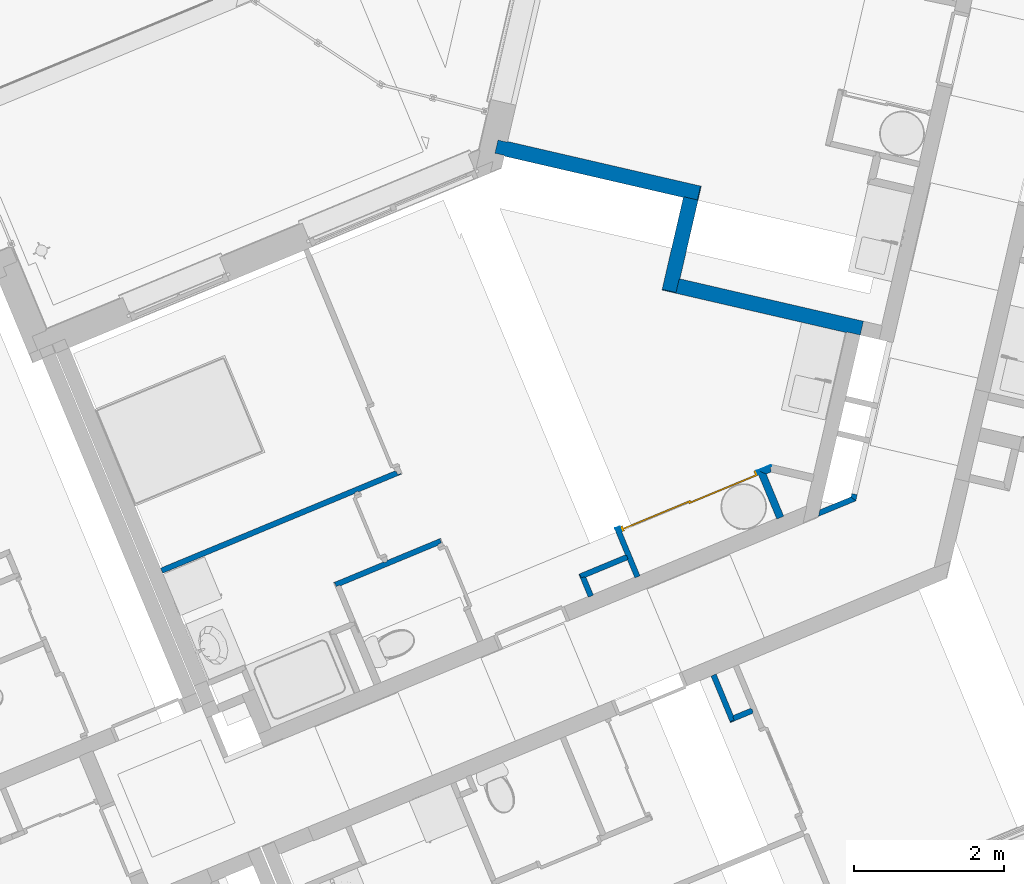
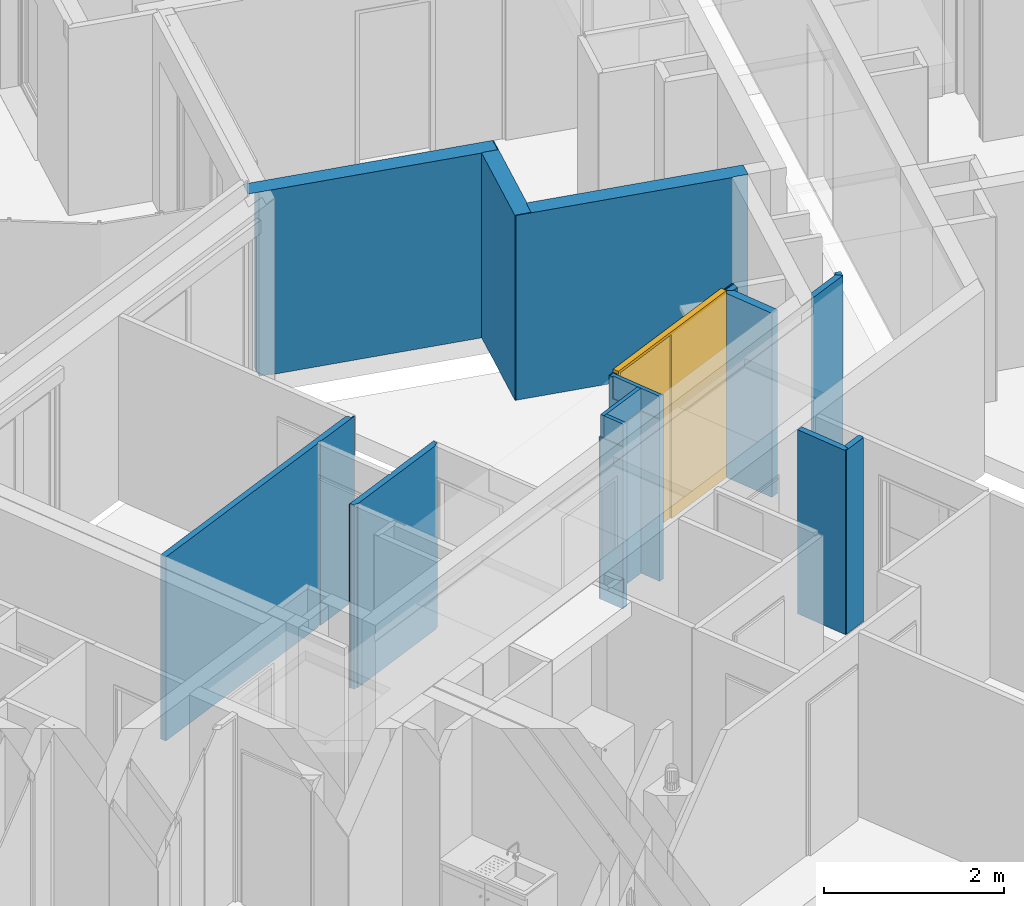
# One storey, part 42 of 119: 15 walls, 1 door, 1 opening.
"""IFC2X3 building model written with IfcOpenShell, lengths in metres."""

from ifc_helpers import new_model, entity, si_unit, converted_unit, derived_unit, money_unit, direction, frame, origin_with_axes, place, context, subcontext, project, spatial, faceted_brep, material, material_list, type_object, element, fill, save


model = new_model("IFC2X3")

# Units and contexts
model_context = context("Model", 3, precision=1e-05, world=origin_with_axes(), true_north=direction((0.0, 1.0)))
body_context = subcontext(model_context, "Body", "Model", "MODEL_VIEW")
ifc_project = project(units=[si_unit("LENGTHUNIT", "METRE"), si_unit("AREAUNIT", "SQUARE_METRE"), si_unit("VOLUMEUNIT", "CUBIC_METRE"), converted_unit("PLANEANGLEUNIT", "DEGREE", entity("IfcPlaneAngleMeasure", 0.0174532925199), si_unit("PLANEANGLEUNIT", "RADIAN"), dimensions=[0, 0, 0, 0, 0, 0, 0]), si_unit("SOLIDANGLEUNIT", "STERADIAN"), money_unit("EUR"), converted_unit("TIMEUNIT", "Year", entity("IfcTimeMeasure", 31556926.0), si_unit("TIMEUNIT", "SECOND"), dimensions=[0, 0, 1, 0, 0, 0, 0]), si_unit("MASSUNIT", "GRAM", prefix="KILO"), si_unit("THERMODYNAMICTEMPERATUREUNIT", "DEGREE_CELSIUS"), si_unit("LUMINOUSINTENSITYUNIT", "LUMEN"), si_unit("ENERGYUNIT", "JOULE", prefix="MEGA"), derived_unit("THERMALCONDUCTANCEUNIT", [(si_unit("POWERUNIT", "WATT"), 1), (si_unit("LENGTHUNIT", "METRE"), -1), (si_unit("THERMODYNAMICTEMPERATUREUNIT", "KELVIN"), -1)]), derived_unit("SPECIFICHEATCAPACITYUNIT", [(si_unit("ENERGYUNIT", "JOULE"), 1), (si_unit("MASSUNIT", "GRAM", prefix="KILO"), -1), (si_unit("THERMODYNAMICTEMPERATUREUNIT", "KELVIN"), -1)]), derived_unit("MASSDENSITYUNIT", [(si_unit("MASSUNIT", "GRAM", prefix="KILO"), 1), (si_unit("VOLUMEUNIT", "CUBIC_METRE"), -1)])], contexts=[model_context])

# Site, building, storey
site_placement = place(None, origin_with_axes())
site = spatial("IfcSite", under=ifc_project, at=site_placement, Name="Site", CompositionType="ELEMENT")
building_placement = place(site_placement, origin_with_axes())
building = spatial("IfcBuilding", under=site, at=building_placement, Name="Bâtiment", CompositionType="ELEMENT")
storey_placement = place(building_placement, origin_with_axes())
storey = spatial("IfcBuildingStorey", under=building, at=storey_placement, Name="Rez-de-chaussée", CompositionType="ELEMENT", Elevation=0.0)

# Walls
ifc_material_1 = material(Name="Cloison - Carreaux de plâtre")
wall_type_1 = type_object("IfcWallType", Name="Cloison - Carreaux de plâtre 74", PredefinedType="USERDEFINED")
wall_1_placement = place(storey_placement, frame((-14.7299113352, -17.3671280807, 0.0), z_axis=(0.0, 0.0, 1.0), x_axis=(-0.224876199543, -0.974387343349, 0.0)))
element("IfcWall", 1, at=wall_1_placement, inside=storey, type_object=wall_type_1, material=ifc_material_1, Name="Carreaux de plâtre 8cm", ObjectType="PARTITIONING", context=body_context, shape_type="Brep", body=[
    faceted_brep([(0.0, 0.0, 2.5), (0.0, -0.074, 2.5), (0.0459416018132, -0.074, 2.5), (0.0840359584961, 0.0, 2.5), (0.0, 0.0, 0.15), (0.0, -0.074, 0.15), (0.0, -0.074, 0.0), (0.0459416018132, -0.074, 0.0), (0.0840359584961, 0.0, 0.0), (0.0, 0.0, 0.0)], [[[0, 1, 2, 3]], [[1, 0, 4, 5]], [[5, 6, 7, 2, 1]], [[7, 8, 3, 2]], [[3, 8, 9, 4, 0]], [[9, 6, 5, 4]], [[9, 8, 7, 6]]]),
])
wall_2_placement = place(storey_placement, frame((-15.2595237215, -17.6608345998, 0.0), z_axis=(0.0, 0.0, 1.0), x_axis=(0.923701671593, 0.383112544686, 0.0)))
element("IfcWall", 2, at=wall_2_placement, inside=storey, type_object=wall_type_1, material=ifc_material_1, Name="Carreaux de plâtre 8cm", ObjectType="PARTITIONING", context=body_context, shape_type="Brep", body=[
    faceted_brep([(0.514805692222, 0.074, 2.5), (0.514805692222, 0.074, 0.0), (0.065113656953, 0.074, 0.0), (0.065113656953, 0.074, 2.5), (0.552900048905, 0.0, 2.5), (0.552900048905, 0.0, 0.0), (0.0122866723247, 0.0, 0.0), (0.0122866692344, -4.32440749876e-09, 2.5)], [[[0, 1, 2, 3]], [[4, 5, 1, 0]], [[1, 5, 6, 2]], [[2, 6, 7, 3]], [[4, 0, 3, 7]], [[5, 4, 7, 6]]]),
])

# Wall, opening, door
ifc_material_2 = material(Name="Finition int - Plaque de plâtre")
ifc_material_3 = material(Name="Isolation - Laine de roche")
ifc_material_list_1 = material_list([ifc_material_2, ifc_material_3])
wall_type_2 = type_object("IfcWallType", Name="3 - Cloison 72mm Placostil 74", PredefinedType="USERDEFINED")
wall_3_placement = place(storey_placement, frame((-17.9705088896, -17.8217225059, 0.0), z_axis=(0.0, 0.0, 1.0), x_axis=(0.923701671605, 0.383112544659, 0.0)))
wall_3 = element("IfcWall", 3, at=wall_3_placement, inside=storey, type_object=wall_type_2, material=ifc_material_list_1, Name="Cloison Placostil 72/48", ObjectType="PARTITIONING", context=body_context, shape_type="Brep", body=[
    faceted_brep([(0.0739999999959, -0.013, 0.0), (0.0739999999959, -0.013, 2.5), (0.0129999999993, -0.013, 2.5), (0.0129999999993, -0.013, 0.0), (0.0739999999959, 0.0, 2.5), (0.0739999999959, 0.0, 0.0), (0.013, 0.0, 2.5), (0.013, 0.0, 0.0)], [[[0, 1, 2, 3]], [[4, 1, 0, 5]], [[1, 4, 6, 2]], [[2, 6, 7, 3]], [[5, 0, 3, 7]], [[4, 5, 7, 6]]]),
    faceted_brep([(0.0739999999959, -0.061, 0.0), (0.0739999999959, -0.061, 2.5), (0.0609999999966, -0.061, 2.5), (0.0609999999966, -0.061, 0.0), (0.0739999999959, -0.013, 2.5), (0.0739999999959, -0.013, 0.0), (0.0609999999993, -0.013, 2.5), (0.0609999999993, -0.013, 0.0)], [[[0, 1, 2, 3]], [[4, 1, 0, 5]], [[1, 4, 6, 2]], [[2, 6, 7, 3]], [[5, 0, 3, 7]], [[4, 5, 7, 6]]]),
    faceted_brep([(2.05206633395, -0.013, 2.5), (2.05206633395, -0.061, 2.5), (2.07806634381, -0.061, 2.5), (2.07806634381, -0.0260000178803, 2.5), (2.25206633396, -0.0260000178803, 2.5), (2.25206633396, -0.013, 2.5), (2.05206633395, -0.061, 0.0), (2.05206633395, -0.013, 0.0), (2.07806634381, -0.061, 0.0), (2.07806634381, -0.0260000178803, 0.0), (2.25206633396, -0.0260000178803, 0.0), (2.25206633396, -0.013, 0.0)], [[[0, 1, 2, 3, 4, 5]], [[6, 1, 0, 7]], [[1, 6, 8, 2]], [[3, 2, 8, 9]], [[10, 4, 3, 9]], [[4, 10, 11, 5]], [[7, 0, 5, 11]], [[6, 7, 11, 10, 9, 8]]]),
])
opening_placement = place(wall_3_placement, frame((1.06303316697, 0.0, 0.0), z_axis=(0.0, 0.0, 1.0), x_axis=(1.0, 0.0, 0.0)))
opening = element("IfcOpeningElement", 4, at=opening_placement, cuts=wall_3, Name="Por-002", context=body_context, shape_type="Brep", body=[
    faceted_brep([(0.989033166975, -0.074, 0.0), (-0.989033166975, -0.074, 0.0), (-0.989033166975, 0.074, 0.0), (0.989033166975, 0.074, 0.0), (0.989033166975, -0.074, 2.54), (-0.989033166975, -0.074, 2.54), (-0.989033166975, 0.074, 2.54), (0.989033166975, 0.074, 2.54)], [[[0, 1, 2, 3]], [[0, 4, 5, 1]], [[1, 5, 6, 2]], [[3, 2, 6, 7]], [[4, 0, 3, 7]], [[5, 4, 7, 6]]]),
])
door_style = type_object("IfcDoorStyle", Name="Porte int générique 2019", ConstructionType="NOTDEFINED", OperationType="USERDEFINED", ParameterTakesPrecedence=False, Sizeable=False)
door_placement = place(opening_placement, frame((0.949033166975, 0.0, 0.0), z_axis=(0.0, 0.0, 1.0), x_axis=(-1.0, 0.0, 0.0)))
door = element("IfcDoor", 5, at=door_placement, inside=storey, type_object=door_style, Name="Por-002", ObjectType="DOOR", OverallHeight=2.5, OverallWidth=1.89807, context=body_context, shape_type="Brep", body=[
    faceted_brep([(-0.04, 0.074, 0.0), (-0.04, 0.074, 2.54), (1.93806633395, 0.074, 2.54), (1.93806633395, 0.074, 0.0), (1.89806633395, 0.074, 0.0), (1.89806633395, 0.074, 2.5), (0.0, 0.074, 2.5), (0.0, 0.074, 0.0), (-0.04, 0.0, 0.0), (-0.04, 0.0, 2.54), (1.93806633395, 0.0, 2.54), (1.93806633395, 0.0, 0.0), (1.89806633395, 0.0, 0.0), (1.89806633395, 0.0, 2.5), (0.0, 0.0, 2.5), (0.0, 0.0, 0.0)], [[[0, 1, 2, 3, 4, 5, 6, 7]], [[8, 9, 1, 0]], [[9, 10, 2, 1]], [[10, 11, 3, 2]], [[3, 11, 12, 4]], [[5, 4, 12, 13]], [[6, 5, 13, 14]], [[7, 6, 14, 15]], [[0, 7, 15, 8]], [[15, 14, 13, 12, 11, 10, 9, 8]]]),
    faceted_brep([(0.0, 0.074, 0.0), (0.964033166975, 0.074, 0.0), (0.964033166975, 0.054, 0.0), (0.0, 0.054, 0.0), (0.0, 0.074, 2.5), (0.964033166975, 0.074, 2.5), (0.964033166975, 0.054, 2.5), (0.0, 0.054, 2.5)], [[[0, 1, 2, 3]], [[0, 4, 5, 1]], [[1, 5, 6, 2]], [[3, 2, 6, 7]], [[4, 0, 3, 7]], [[5, 4, 7, 6]]]),
    faceted_brep([(0.934033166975, 0.054, 0.0), (1.89806633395, 0.054, 0.0), (1.89806633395, 0.034, 0.0), (0.934033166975, 0.034, 0.0), (0.934033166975, 0.054, 2.5), (1.89806633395, 0.054, 2.5), (1.89806633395, 0.034, 2.5), (0.934033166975, 0.034, 2.5)], [[[0, 1, 2, 3]], [[0, 4, 5, 1]], [[1, 5, 6, 2]], [[3, 2, 6, 7]], [[4, 0, 3, 7]], [[5, 4, 7, 6]]]),
])
fill(opening, door)

# Walls
ifc_material_list_2 = material_list([ifc_material_2, ifc_material_3, ifc_material_2])
wall_4_placement = place(storey_placement, frame((-17.6295387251, -18.643816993, 0.0), z_axis=(0.0, 0.0, 1.0), x_axis=(-0.383112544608, 0.923701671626, 0.0)))
element("IfcWall", 6, at=wall_4_placement, inside=storey, type_object=wall_type_2, material=ifc_material_list_2, Name="Cloison Placostil 72/48", ObjectType="PARTITIONING", context=body_context, shape_type="Brep", body=[
    faceted_brep([(0.452999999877, -0.013, 2.2), (0.189999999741, -0.013, 2.2), (0.189999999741, -0.013, 2.5), (0.179999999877, -0.013, 2.5), (0.179999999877, -0.013, 0.0), (0.452999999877, -0.013, 0.0), (0.452999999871, 0.0, 2.2), (0.189999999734, 0.0, 2.2), (0.189999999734, 0.0, 2.5), (0.179999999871, 0.0, 2.5), (0.179999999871, 0.0, 0.0), (0.452999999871, 0.0, 0.0)], [[[0, 1, 2, 3, 4, 5]], [[1, 0, 6, 7]], [[8, 2, 1, 7]], [[2, 8, 9, 3]], [[4, 3, 9, 10]], [[11, 5, 4, 10]], [[6, 0, 5, 11]], [[7, 6, 11, 10, 9, 8]]]),
    faceted_brep([(0.839999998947, -0.013, 2.5), (0.839999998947, -0.013, 2.2), (0.500999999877, -0.013, 2.2), (0.500999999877, -0.013, 0.0), (0.889999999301, -0.013, 0.0), (0.889999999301, -0.013, 2.5), (0.839999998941, 0.0, 2.5), (0.839999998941, 0.0, 2.2), (0.500999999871, 0.0, 2.2), (0.500999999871, 0.0, 0.0), (0.8899999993, 0.0, 0.0), (0.8899999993, 0.0, 2.5)], [[[0, 1, 2, 3, 4, 5]], [[1, 0, 6, 7]], [[8, 2, 1, 7]], [[2, 8, 9, 3]], [[10, 4, 3, 9]], [[11, 5, 4, 10]], [[6, 0, 5, 11]], [[7, 6, 11, 10, 9, 8]]]),
    faceted_brep([(0.876999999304, -0.061, 2.5), (0.876999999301, -0.013, 2.5), (0.179999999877, -0.013, 2.5), (0.179999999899, -0.061, 2.5), (0.876999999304, -0.061, 0.0), (0.876999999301, -0.013, 0.0), (0.179999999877, -0.013, 0.0), (0.179999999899, -0.061, 0.0)], [[[0, 1, 2, 3]], [[1, 0, 4, 5]], [[1, 5, 6, 2]], [[7, 3, 2, 6]], [[4, 0, 3, 7]], [[5, 4, 7, 6]]]),
    faceted_brep([(0.828999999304, -0.074, 2.2), (0.189999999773, -0.074, 2.2), (0.189999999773, -0.074, 2.5), (0.179999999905, -0.074, 2.5), (0.179999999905, -0.074, 0.0), (0.828999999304, -0.074, 0.0), (0.828999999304, -0.061, 2.2), (0.189999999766, -0.061, 2.2), (0.189999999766, -0.061, 2.5), (0.179999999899, -0.061, 2.5), (0.179999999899, -0.061, 0.0), (0.828999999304, -0.061, 0.0)], [[[0, 1, 2, 3, 4, 5]], [[1, 0, 6, 7]], [[8, 2, 1, 7]], [[2, 8, 9, 3]], [[4, 3, 9, 10]], [[11, 5, 4, 10]], [[6, 0, 5, 11]], [[7, 6, 11, 10, 9, 8]]]),
])
wall_5_placement = place(storey_placement, frame((-21.6551757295, -18.5120342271, 0.0), z_axis=(0.0, 0.0, 1.0), x_axis=(0.923701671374, 0.383112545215, 0.0)))
element("IfcWall", 7, at=wall_5_placement, inside=storey, type_object=wall_type_2, material=ifc_material_list_2, Name="Cloison Placostil 72/48", ObjectType="PARTITIONING", context=body_context, shape_type="Brep", body=[
    faceted_brep([(1.47399999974, -0.013, 2.5), (1.47399999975, 0.0, 2.5), (0.697460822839, 0.0, 2.5), (0.697460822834, -0.013, 2.5), (1.47399999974, -0.013, 0.0), (1.47399999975, 0.0, 0.0), (0.697460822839, 0.0, 0.0), (0.697460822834, -0.013, 0.0)], [[[0, 1, 2, 3]], [[1, 0, 4, 5]], [[1, 5, 6, 2]], [[7, 3, 2, 6]], [[4, 0, 3, 7]], [[5, 4, 7, 6]]]),
    faceted_brep([(0.649460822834, -0.013, 2.5), (0.649460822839, 0.0, 2.5), (-0.074, 0.0, 2.5), (-0.0740000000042, -0.013, 2.5), (0.649460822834, -0.013, 0.0), (0.649460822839, 0.0, 0.0), (-0.074, 0.0, 0.0), (-0.0740000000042, -0.013, 0.0)], [[[0, 1, 2, 3]], [[1, 0, 4, 5]], [[1, 5, 6, 2]], [[7, 3, 2, 6]], [[4, 0, 3, 7]], [[5, 4, 7, 6]]]),
    faceted_brep([(1.46099999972, -0.061, 2.5), (1.46099999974, -0.013, 2.5), (-0.0610000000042, -0.013, 2.5), (-0.0610000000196, -0.061, 2.5), (1.46099999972, -0.061, 0.0), (1.46099999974, -0.013, 0.0), (-0.0610000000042, -0.013, 0.0), (-0.0610000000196, -0.061, 0.0)], [[[0, 1, 2, 3]], [[1, 0, 4, 5]], [[1, 5, 6, 2]], [[7, 3, 2, 6]], [[4, 0, 3, 7]], [[5, 4, 7, 6]]]),
    faceted_brep([(1.41299999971, -0.074, 2.5), (1.41299999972, -0.061, 2.5), (-0.0130000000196, -0.061, 2.5), (-0.0130000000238, -0.074, 2.5), (1.41299999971, -0.074, 0.0), (1.41299999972, -0.061, 0.0), (-0.0130000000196, -0.061, 0.0), (-0.0130000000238, -0.074, 0.0)], [[[0, 1, 2, 3]], [[1, 0, 4, 5]], [[1, 5, 6, 2]], [[7, 3, 2, 6]], [[4, 0, 3, 7]], [[5, 4, 7, 6]]]),
])
wall_6_placement = place(storey_placement, frame((-17.826458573, -18.1690343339, 0.0), z_axis=(0.0, 0.0, 1.0), x_axis=(-0.923701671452, -0.383112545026, 0.0)))
element("IfcWall", 8, at=wall_6_placement, inside=storey, type_object=wall_type_2, material=ifc_material_list_2, Name="Cloison Placostil 72/48", ObjectType="PARTITIONING", context=body_context, shape_type="Brep", body=[
    faceted_brep([(0.0, 0.061, 2.2), (0.0, 0.074, 2.2), (0.0, 0.074, 0.0), (0.0, 0.061, 0.0), (0.613000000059, 0.074, 2.2), (0.613000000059, 0.061, 2.2), (0.613000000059, 0.074, 0.0), (0.613000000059, 0.061, 0.0)], [[[0, 1, 2, 3]], [[4, 1, 0, 5]], [[1, 4, 6, 2]], [[6, 7, 3, 2]], [[5, 0, 3, 7]], [[4, 5, 7, 6]]]),
    faceted_brep([(0.661000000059, 0.061, 0.0), (0.661000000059, 0.013, 0.0), (-0.0130000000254, 0.013, 0.0), (-0.0130000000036, 0.061, 0.0), (0.661000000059, 0.061, 2.5), (0.661000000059, 0.013, 2.5), (-0.0130000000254, 0.013, 2.5), (-0.0130000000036, 0.061, 2.5)], [[[0, 1, 2, 3]], [[1, 0, 4, 5]], [[1, 5, 6, 2]], [[7, 3, 2, 6]], [[4, 0, 3, 7]], [[5, 4, 7, 6]]]),
    faceted_brep([(0.0, 0.0, 2.2), (0.0, 0.013, 2.2), (0.0, 0.013, 0.0), (0.0, 0.0, 0.0), (0.674000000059, 0.013, 2.2), (0.674000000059, 0.0, 2.2), (0.674000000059, 0.013, 0.0), (0.674000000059, 0.0, 0.0)], [[[0, 1, 2, 3]], [[4, 1, 0, 5]], [[1, 4, 6, 2]], [[6, 7, 3, 2]], [[5, 0, 3, 7]], [[4, 5, 7, 6]]]),
])
wall_7_placement = place(storey_placement, frame((-20.806315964, -17.0871087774, 0.0), z_axis=(0.0, 0.0, 1.0), x_axis=(-0.923701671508, -0.383112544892, 0.0)))
element("IfcWall", 9, at=wall_7_placement, inside=storey, type_object=wall_type_2, material=ifc_material_list_2, Name="Cloison Placostil 72/48", ObjectType="PARTITIONING", context=body_context, shape_type="Brep", body=[
    faceted_brep([(0.632539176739, -0.013, 2.5), (0.63253917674, 0.0, 2.5), (0.013, 0.0, 2.5), (0.0129999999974, -0.013, 2.5), (0.632539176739, -0.013, 0.0), (0.63253917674, 0.0, 0.0), (0.013, 0.0, 0.0), (0.0129999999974, -0.013, 0.0)], [[[0, 1, 2, 3]], [[1, 0, 4, 5]], [[1, 5, 6, 2]], [[7, 3, 2, 6]], [[4, 0, 3, 7]], [[5, 4, 7, 6]]]),
    faceted_brep([(0.680539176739, -0.013, 2.5), (3.4639999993, -0.013, 2.5), (3.4639999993, 0.0, 2.5), (0.68053917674, 0.0, 2.5), (0.680539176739, -0.013, 0.0), (3.4639999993, -0.013, 0.0), (3.4639999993, 0.0, 0.0), (0.68053917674, 0.0, 0.0)], [[[0, 1, 2, 3]], [[4, 5, 1, 0]], [[2, 1, 5, 6]], [[3, 2, 6, 7]], [[4, 0, 3, 7]], [[7, 6, 5, 4]]]),
    faceted_brep([(0.0609999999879, -0.061, 2.5), (3.4639999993, -0.061, 2.5), (3.4639999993, -0.013, 2.5), (0.0609999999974, -0.013, 2.5), (0.0609999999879, -0.061, 0.0), (3.4639999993, -0.061, 0.0), (3.4639999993, -0.013, 0.0), (0.0609999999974, -0.013, 0.0)], [[[0, 1, 2, 3]], [[4, 5, 1, 0]], [[2, 1, 5, 6]], [[3, 2, 6, 7]], [[4, 0, 3, 7]], [[7, 6, 5, 4]]]),
    faceted_brep([(0.0739999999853, -0.074, 2.5), (3.4639999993, -0.074, 2.5), (3.4639999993, -0.061, 2.5), (0.0739999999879, -0.061, 2.5), (0.0739999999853, -0.074, 0.0), (3.4639999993, -0.074, 0.0), (3.4639999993, -0.061, 0.0), (0.0739999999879, -0.061, 0.0)], [[[0, 1, 2, 3]], [[4, 5, 1, 0]], [[2, 1, 5, 6]], [[3, 2, 6, 7]], [[4, 0, 3, 7]], [[7, 6, 5, 4]]]),
])
wall_8_placement = place(storey_placement, frame((-16.4239628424, -20.4107605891, 0.0), z_axis=(0.0, 0.0, 1.0), x_axis=(0.92370167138, 0.383112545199, 0.0)))
element("IfcWall", 10, at=wall_8_placement, inside=storey, type_object=wall_type_2, material=ifc_material_list_2, Name="Cloison Placostil 72/48", ObjectType="PARTITIONING", context=body_context, shape_type="Brep", body=[
    faceted_brep([(0.323540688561, 0.074, 0.0), (0.323540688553, 0.061, 0.0), (0.0740000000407, 0.061, 0.0), (0.0740000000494, 0.074, 0.0), (0.323540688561, 0.074, 2.5), (0.323540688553, 0.061, 2.5), (0.0740000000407, 0.061, 2.5), (0.0740000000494, 0.074, 2.5)], [[[0, 1, 2, 3]], [[1, 0, 4, 5]], [[1, 5, 6, 2]], [[7, 3, 2, 6]], [[4, 0, 3, 7]], [[5, 4, 7, 6]]]),
    faceted_brep([(0.336540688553, 0.061, 0.0), (0.336540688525, 0.013, 0.0), (0.0610000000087, 0.013, 0.0), (0.0610000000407, 0.061, 0.0), (0.336540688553, 0.061, 2.5), (0.336540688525, 0.013, 2.5), (0.0610000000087, 0.013, 2.5), (0.0610000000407, 0.061, 2.5)], [[[0, 1, 2, 3]], [[1, 0, 4, 5]], [[1, 5, 6, 2]], [[7, 3, 2, 6]], [[4, 0, 3, 7]], [[5, 4, 7, 6]]]),
    faceted_brep([(0.323540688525, 0.013, 0.0), (0.323540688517, 0.0, 0.0), (0.013, 0.0, 0.0), (0.0130000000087, 0.013, 0.0), (0.323540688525, 0.013, 2.5), (0.323540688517, 0.0, 2.5), (0.013, 0.0, 2.5), (0.0130000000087, 0.013, 2.5)], [[[0, 1, 2, 3]], [[1, 0, 4, 5]], [[1, 5, 6, 2]], [[7, 3, 2, 6]], [[4, 0, 3, 7]], [[5, 4, 7, 6]]]),
])
wall_9_placement = place(storey_placement, frame((-18.4490334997, -18.4272521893, 0.0), z_axis=(0.0, 0.0, 1.0), x_axis=(0.383112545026, -0.923701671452, 0.0)))
element("IfcWall", 11, at=wall_9_placement, inside=storey, type_object=wall_type_2, material=ifc_material_list_2, Name="Cloison Placostil 72/48", ObjectType="PARTITIONING", context=body_context, shape_type="Brep", body=[
    faceted_brep([(0.074, 0.074, 2.2), (0.324000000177, 0.074, 2.2), (0.324000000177, 0.074, 2.5), (0.334, 0.074, 2.5), (0.334, 0.074, 0.0), (0.074, 0.074, 0.0), (0.074, 0.061, 2.2), (0.324000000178, 0.061, 2.2), (0.324000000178, 0.061, 2.5), (0.334, 0.061, 2.5), (0.334, 0.061, 0.0), (0.074, 0.061, 0.0)], [[[0, 1, 2, 3, 4, 5]], [[1, 0, 6, 7]], [[8, 2, 1, 7]], [[2, 8, 9, 3]], [[10, 4, 3, 9]], [[4, 10, 11, 5]], [[6, 0, 5, 11]], [[7, 6, 11, 10, 9, 8]]]),
    faceted_brep([(0.334, 0.061, 0.0), (0.334, 0.013, 0.0), (0.061, 0.013, 0.0), (0.061, 0.061, 0.0), (0.334, 0.061, 2.5), (0.334, 0.013, 2.5), (0.061, 0.013, 2.5), (0.061, 0.061, 2.5)], [[[0, 1, 2, 3]], [[1, 0, 4, 5]], [[1, 5, 6, 2]], [[7, 3, 2, 6]], [[4, 0, 3, 7]], [[5, 4, 7, 6]]]),
    faceted_brep([(0.013, 0.013, 2.2), (0.324000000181, 0.013, 2.2), (0.324000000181, 0.013, 2.5), (0.334, 0.013, 2.5), (0.334, 0.013, 0.0), (0.013, 0.013, 0.0), (0.013, 0.0, 2.2), (0.324000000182, 0.0, 2.2), (0.324000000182, 0.0, 2.5), (0.334, 0.0, 2.5), (0.334, 0.0, 0.0), (0.013, 0.0, 0.0)], [[[0, 1, 2, 3, 4, 5]], [[1, 0, 6, 7]], [[8, 2, 1, 7]], [[2, 8, 9, 3]], [[10, 4, 3, 9]], [[4, 10, 11, 5]], [[6, 0, 5, 11]], [[7, 6, 11, 10, 9, 8]]]),
])
wall_10_placement = place(storey_placement, frame((-16.6821806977, -19.7881856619, 0.0), z_axis=(0.0, 0.0, 1.0), x_axis=(0.383112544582, -0.923701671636, 0.0)))
element("IfcWall", 12, at=wall_10_placement, inside=storey, type_object=wall_type_2, material=ifc_material_list_2, Name="Cloison Placostil 72/48", ObjectType="PARTITIONING", context=body_context, shape_type="Brep", body=[
    faceted_brep([(0.613000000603, 0.074, 0.0), (0.613000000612, 0.061, 0.0), (0.0, 0.061, 0.0), (0.0, 0.074, 0.0), (0.613000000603, 0.074, 2.5), (0.613000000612, 0.061, 2.5), (0.0, 0.061, 2.5), (0.0, 0.074, 2.5)], [[[0, 1, 2, 3]], [[1, 0, 4, 5]], [[1, 5, 6, 2]], [[7, 3, 2, 6]], [[4, 0, 3, 7]], [[5, 4, 7, 6]]]),
    faceted_brep([(0.661000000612, 0.061, 0.0), (0.661000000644, 0.013, 0.0), (0.0, 0.013, 0.0), (0.0, 0.061, 0.0), (0.661000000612, 0.061, 2.5), (0.661000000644, 0.013, 2.5), (0.0, 0.013, 2.5), (0.0, 0.061, 2.5)], [[[0, 1, 2, 3]], [[1, 0, 4, 5]], [[1, 5, 6, 2]], [[7, 3, 2, 6]], [[4, 0, 3, 7]], [[5, 4, 7, 6]]]),
    faceted_brep([(0.674000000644, 0.013, 0.0), (0.674000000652, 0.0, 0.0), (0.0, 0.0, 0.0), (0.0, 0.013, 0.0), (0.674000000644, 0.013, 2.5), (0.674000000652, 0.0, 2.5), (0.0, 0.0, 2.5), (0.0, 0.013, 2.5)], [[[0, 1, 2, 3]], [[1, 0, 4, 5]], [[1, 5, 6, 2]], [[7, 3, 2, 6]], [[4, 0, 3, 7]], [[5, 4, 7, 6]]]),
])
ifc_material_4 = material(Name="Finition int - Enduit plâtre")
ifc_material_5 = material(Name="Béton")
ifc_material_list_3 = material_list([ifc_material_4, ifc_material_5, ifc_material_4])
wall_type_3 = type_object("IfcWallType", Name="2 - Murs Béton 18 + Enduit 2 Faces 200", PredefinedType="USERDEFINED")
wall_11_placement = place(storey_placement, frame((-17.3251185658, -14.6252936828, 0.0), z_axis=(0.0, 0.0, 1.0), x_axis=(0.974387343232, -0.224876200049, 0.0)))
element("IfcWall", 13, at=wall_11_placement, inside=storey, type_object=wall_type_3, material=ifc_material_list_3, Name="M_Ext-009", ObjectType="SOLIDWALL", context=body_context, shape_type="Brep", body=[
    faceted_brep([(0.189999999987, 0.19, 2.51), (2.70531037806, 0.19, 2.51), (2.70531037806, 0.19, 0.0), (0.189999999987, 0.19, 0.0), (2.70531037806, 0.18, 2.51), (0.189999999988, 0.18, 2.51), (2.70531037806, 0.18, 0.0), (0.189999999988, 0.18, 0.0)], [[[0, 1, 2, 3]], [[4, 1, 0, 5]], [[1, 4, 6, 2]], [[3, 2, 6, 7]], [[5, 0, 3, 7]], [[4, 5, 7, 6]]]),
    faceted_brep([(0.179999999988, 0.18, 2.51), (2.70531037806, 0.18, 2.51), (2.70531037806, 0.18, 0.0), (0.179999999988, 0.18, 0.0), (2.70531037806, 0.0, 2.51), (0.18, 0.0, 2.51), (2.70531037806, 0.0, 0.0), (0.18, 0.0, 0.0)], [[[0, 1, 2, 3]], [[4, 1, 0, 5]], [[1, 4, 6, 2]], [[3, 2, 6, 7]], [[5, 0, 3, 7]], [[4, 5, 7, 6]]]),
    faceted_brep([(0.0, 0.0, 2.51), (2.52531037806, 0.0, 2.51), (2.52531037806, 0.0, 0.0), (0.0, 0.0, 0.0), (2.52531037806, -0.01, 2.51), (0.0, -0.01, 2.51), (2.52531037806, -0.01, 0.0), (0.0, -0.01, 0.0)], [[[0, 1, 2, 3]], [[4, 1, 0, 5]], [[1, 4, 6, 2]], [[2, 6, 7, 3]], [[5, 0, 3, 7]], [[4, 5, 7, 6]]]),
])
wall_12_placement = place(storey_placement, frame((-16.9990480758, -13.212432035, 0.0), z_axis=(0.0, 0.0, 1.0), x_axis=(-0.224876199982, -0.974387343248, 0.0)))
element("IfcWall", 14, at=wall_12_placement, inside=storey, type_object=wall_type_3, material=ifc_material_list_3, Name="M_Ext-008", ObjectType="SOLIDWALL", context=body_context, shape_type="Brep", body=[
    faceted_brep([(0.0, 0.18, 2.51), (0.0, 0.19, 2.51), (0.0, 0.19, 0.0), (0.0, 0.18, 0.0), (1.27000000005, 0.19, 2.51), (1.27000000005, 0.18, 2.51), (1.27000000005, 0.19, 0.0), (1.27000000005, 0.18, 0.0)], [[[0, 1, 2, 3]], [[4, 1, 0, 5]], [[1, 4, 6, 2]], [[6, 7, 3, 2]], [[5, 0, 3, 7]], [[4, 5, 7, 6]]]),
    faceted_brep([(0.18, 0.0, 2.51), (0.179999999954, 0.18, 2.51), (0.179999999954, 0.18, 0.0), (0.18, 0.0, 0.0), (1.45000000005, 0.18, 2.51), (1.45000000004, 0.0, 2.51), (1.45000000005, 0.18, 0.0), (1.45000000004, 0.0, 0.0)], [[[0, 1, 2, 3]], [[4, 1, 0, 5]], [[1, 4, 6, 2]], [[6, 7, 3, 2]], [[5, 0, 3, 7]], [[4, 5, 7, 6]]]),
    faceted_brep([(0.190000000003, -0.01, 2.51), (0.19, 0.0, 2.51), (0.19, 0.0, 0.0), (0.190000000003, -0.01, 0.0), (1.46000000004, 0.0, 2.51), (1.46000000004, -0.01, 2.51), (1.46000000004, 0.0, 0.0), (1.46000000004, -0.01, 0.0)], [[[0, 1, 2, 3]], [[4, 1, 0, 5]], [[1, 4, 6, 2]], [[6, 7, 3, 2]], [[5, 0, 3, 7]], [[4, 5, 7, 6]]]),
])
wall_13_placement = place(storey_placement, frame((-19.7370585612, -12.5805340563, 0.0), z_axis=(0.0, 0.0, 1.0), x_axis=(0.974387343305, -0.224876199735, 0.0)))
element("IfcWall", 15, at=wall_13_placement, inside=storey, type_object=wall_type_3, material=ifc_material_list_3, Name="M_Ext-008", ObjectType="SOLIDWALL", context=body_context, shape_type="Brep", body=[
    faceted_brep([(0.0830000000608, 0.01, 2.51), (2.99998157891, 0.01, 2.51), (2.99998157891, 0.01, 0.0), (0.344999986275, 0.01, 0.0), (0.344999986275, 0.01, 0.133633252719), (0.344999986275, 0.01, 0.160000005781), (0.344999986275, 0.01, 0.169414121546), (0.344999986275, 0.01, 0.176532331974), (0.344999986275, 0.01, 0.207793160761), (0.344999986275, 0.01, 2.50955001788), (0.335000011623, 0.01, 2.50955001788), (0.214999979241, 0.01, 2.50955001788), (0.0830000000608, 0.01, 2.50955), (2.99998157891, 0.0, 2.51), (0.0830000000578, 0.0, 2.51), (2.99998157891, 0.0, 0.0), (0.344999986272, 0.0, 0.0), (0.344999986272, 0.0, 0.133633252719), (0.344999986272, 0.0, 0.160000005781), (0.344999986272, 0.0, 0.169414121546), (0.344999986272, 0.0, 0.176532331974), (0.344999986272, 0.0, 0.207793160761), (0.344999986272, 0.0, 2.50955001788), (0.33500001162, 0.0, 2.50955001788), (0.214999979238, 0.0, 2.50955001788), (0.0830000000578, 0.0, 2.50955)], [[[0, 1, 2, 3, 4, 5, 6, 7, 8, 9, 10, 11, 12]], [[13, 1, 0, 14]], [[1, 13, 15, 2]], [[3, 2, 15, 16]], [[16, 17, 4, 3]], [[18, 5, 4, 17]], [[19, 6, 5, 18]], [[7, 6, 19, 20]], [[8, 7, 20, 21]], [[8, 21, 22, 9]], [[9, 22, 23, 10]], [[23, 24, 11, 10]], [[24, 25, 12, 11]], [[14, 0, 12, 25]], [[13, 14, 25, 24, 23, 22, 21, 20, 19, 18, 17, 16, 15]]]),
    faceted_brep([(0.0830000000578, 0.0, 2.51), (2.98998157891, 0.0, 2.51), (2.98998157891, 0.0, 0.0), (0.214999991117, 0.0, 0.0), (0.214999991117, 0.0, 0.133633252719), (0.214999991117, 0.0, 0.160000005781), (0.214999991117, 0.0, 0.169414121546), (0.214999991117, 0.0, 0.176532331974), (0.214999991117, 0.0, 0.207793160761), (0.214999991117, 0.0, 2.50955001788), (0.0830000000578, 0.0, 2.50955), (2.98998157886, -0.18, 2.51), (0.083000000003, -0.18, 2.51), (2.98998157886, -0.18, 0.0), (0.214999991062, -0.18, 0.0), (0.214999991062, -0.18, 0.133633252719), (0.214999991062, -0.18, 0.160000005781), (0.214999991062, -0.18, 0.169414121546), (0.214999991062, -0.18, 0.176532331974), (0.214999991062, -0.18, 0.207793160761), (0.214999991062, -0.18, 2.50955001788), (0.083000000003, -0.18, 2.50955)], [[[0, 1, 2, 3, 4, 5, 6, 7, 8, 9, 10]], [[11, 1, 0, 12]], [[1, 11, 13, 2]], [[13, 14, 3, 2]], [[14, 15, 4, 3]], [[4, 15, 16, 5]], [[17, 6, 5, 16]], [[17, 18, 7, 6]], [[8, 7, 18, 19]], [[8, 19, 20, 9]], [[20, 21, 10, 9]], [[12, 0, 10, 21]], [[11, 12, 21, 20, 19, 18, 17, 16, 15, 14, 13]]]),
    faceted_brep([(0.083000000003, -0.18, 2.51), (2.80998157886, -0.18, 2.51), (2.80998157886, -0.18, 0.0), (0.344999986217, -0.18, 0.0), (0.344999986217, -0.18, 0.133633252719), (0.344999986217, -0.18, 0.160000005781), (0.344999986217, -0.18, 0.169414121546), (0.344999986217, -0.18, 0.176532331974), (0.344999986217, -0.18, 0.207793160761), (0.344999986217, -0.18, 2.50955001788), (0.335000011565, -0.18, 2.50955001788), (0.214999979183, -0.18, 2.50955001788), (0.083000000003, -0.18, 2.50955), (2.80998157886, -0.19, 2.51), (0.083, -0.19, 2.51), (2.80998157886, -0.19, 0.0), (0.344999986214, -0.19, 0.0), (0.344999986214, -0.19, 0.133633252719), (0.344999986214, -0.19, 0.160000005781), (0.344999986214, -0.19, 0.169414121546), (0.344999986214, -0.19, 0.176532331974), (0.344999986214, -0.19, 0.207793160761), (0.344999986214, -0.19, 2.50955001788), (0.335000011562, -0.19, 2.50955001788), (0.21499997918, -0.19, 2.50955001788), (0.083, -0.19, 2.50955)], [[[0, 1, 2, 3, 4, 5, 6, 7, 8, 9, 10, 11, 12]], [[13, 1, 0, 14]], [[1, 13, 15, 2]], [[3, 2, 15, 16]], [[16, 17, 4, 3]], [[18, 5, 4, 17]], [[19, 6, 5, 18]], [[7, 6, 19, 20]], [[8, 7, 20, 21]], [[8, 21, 22, 9]], [[9, 22, 23, 10]], [[23, 24, 11, 10]], [[24, 25, 12, 11]], [[14, 0, 12, 25]], [[13, 14, 25, 24, 23, 22, 21, 20, 19, 18, 17, 16, 15]]]),
])
ifc_material_list_4 = material_list([ifc_material_2, ifc_material_3, ifc_material_2, ifc_material_2])
wall_type_4 = type_object("IfcWallType", Name="3 - Cloison Gaine Technique 98mm 100", PredefinedType="USERDEFINED")
wall_14_placement = place(storey_placement, frame((-16.0750117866, -17.0355501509, 0.0), z_axis=(0.0, 0.0, 1.0), x_axis=(0.923701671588, 0.383112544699, 0.0)))
element("IfcWall", 16, at=wall_14_placement, inside=storey, type_object=wall_type_4, material=ifc_material_list_4, Name="Cloison 98 isolée", ObjectType="PARTITIONING", context=body_context, shape_type="Brep", body=[
    faceted_brep([(0.200046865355, 0.0, 2.5), (0.0, 0.0, 2.5), (0.0129999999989, -0.013, 2.5), (0.195882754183, -0.013, 2.5), (0.200046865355, 0.0, 0.0), (0.0, 0.0, 0.0), (0.0129999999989, -0.013, 0.0), (0.195882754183, -0.013, 0.0)], [[[0, 1, 2, 3]], [[4, 5, 1, 0]], [[1, 5, 6, 2]], [[7, 3, 2, 6]], [[7, 4, 0, 3]], [[4, 7, 6, 5]]]),
    faceted_brep([(0.176343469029, -0.0739999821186, 2.5), (0.191718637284, -0.0260000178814, 2.5), (0.0260000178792, -0.0260000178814, 2.5), (0.0739999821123, -0.0739999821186, 2.5), (0.176343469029, -0.0739999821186, 0.0), (0.191718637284, -0.0260000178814, 0.0), (0.0260000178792, -0.0260000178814, 0.0), (0.0739999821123, -0.0739999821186, 0.0)], [[[0, 1, 2, 3]], [[4, 5, 1, 0]], [[1, 5, 6, 2]], [[2, 6, 7, 3]], [[4, 0, 3, 7]], [[5, 4, 7, 6]]]),
    faceted_brep([(0.17217935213, -0.087, 2.5), (0.176343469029, -0.0739999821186, 2.5), (0.0739999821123, -0.0739999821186, 2.5), (0.0869999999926, -0.087, 2.5), (0.17217935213, -0.087, 0.0), (0.176343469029, -0.0739999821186, 0.0), (0.0739999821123, -0.0739999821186, 0.0), (0.0869999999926, -0.087, 0.0)], [[[0, 1, 2, 3]], [[4, 5, 1, 0]], [[1, 5, 6, 2]], [[2, 6, 7, 3]], [[4, 0, 3, 7]], [[5, 4, 7, 6]]]),
    faceted_brep([(0.168015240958, -0.1, 2.5), (0.17217935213, -0.087, 2.5), (0.0869999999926, -0.087, 2.5), (0.0999999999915, -0.1, 2.5), (0.168015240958, -0.1, 0.0), (0.17217935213, -0.087, 0.0), (0.0869999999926, -0.087, 0.0), (0.0999999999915, -0.1, 0.0)], [[[0, 1, 2, 3]], [[4, 5, 1, 0]], [[1, 5, 6, 2]], [[2, 6, 7, 3]], [[4, 0, 3, 7]], [[5, 4, 7, 6]]]),
])
ifc_material_list_5 = material_list([ifc_material_2, ifc_material_2, ifc_material_3, ifc_material_2, ifc_material_2])
wall_15_placement = place(storey_placement, frame((-16.0750117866, -17.0355501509, 0.0), z_axis=(0.0, 0.0, 1.0), x_axis=(0.383112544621, -0.92370167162, 0.0)))
element("IfcWall", 17, at=wall_15_placement, inside=storey, type_object=wall_type_4, material=ifc_material_list_5, Name="Cloison 98 isolée", ObjectType="PARTITIONING", context=body_context, shape_type="Brep", body=[
    faceted_brep([(0.70999999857, 0.1, 2.5), (0.70999999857, 0.1, 0.0), (0.0999999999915, 0.1, 0.0), (0.0999999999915, 0.1, 2.5), (0.709999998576, 0.087, 0.0), (0.709999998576, 0.087, 2.5), (0.0869999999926, 0.087, 0.0), (0.0869999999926, 0.087, 2.5)], [[[0, 1, 2, 3]], [[4, 1, 0, 5]], [[1, 4, 6, 2]], [[2, 6, 7, 3]], [[5, 0, 3, 7]], [[4, 5, 7, 6]]]),
    faceted_brep([(0.709999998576, 0.087, 2.5), (0.709999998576, 0.087, 0.0), (0.0869999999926, 0.087, 0.0), (0.0869999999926, 0.087, 2.5), (0.709999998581, 0.0739999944, 0.0), (0.709999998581, 0.0739999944, 2.5), (0.0739999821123, 0.0739999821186, 0.0), (0.0739999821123, 0.0739999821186, 2.5)], [[[0, 1, 2, 3]], [[4, 1, 0, 5]], [[1, 4, 6, 2]], [[2, 6, 7, 3]], [[5, 0, 3, 7]], [[4, 5, 7, 6]]]),
    faceted_brep([(0.709999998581, 0.0739999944, 2.5), (0.709999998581, 0.0739999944, 0.0), (0.0739999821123, 0.0739999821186, 0.0), (0.0739999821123, 0.0739999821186, 2.5), (0.709999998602, 0.026000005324, 0.0), (0.709999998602, 0.026000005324, 2.5), (0.0260000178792, 0.0260000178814, 0.0), (0.0260000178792, 0.0260000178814, 2.5)], [[[0, 1, 2, 3]], [[4, 1, 0, 5]], [[1, 4, 6, 2]], [[2, 6, 7, 3]], [[5, 0, 3, 7]], [[4, 5, 7, 6]]]),
    faceted_brep([(0.709999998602, 0.026000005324, 0.0), (0.0609999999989, 0.0260000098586, 0.0), (0.0609999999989, 0.0260000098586, 2.5), (0.709999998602, 0.026000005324, 2.5), (0.709999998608, 0.013, 0.0), (0.0609999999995, 0.013, 0.0), (0.0609999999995, 0.013, 2.5), (0.709999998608, 0.013, 2.5)], [[[0, 1, 2, 3]], [[4, 5, 1, 0]], [[5, 6, 2, 1]], [[3, 2, 6, 7]], [[4, 0, 3, 7]], [[7, 6, 5, 4]]]),
    faceted_brep([(0.0, 0.0, 2.5), (0.013, 0.0, 2.5), (0.0129999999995, 0.013, 2.5), (0.0, 0.0, 0.0), (0.013, 0.0, 0.0), (0.0129999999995, 0.013, 0.0)], [[[0, 1, 2]], [[3, 4, 1, 0]], [[4, 5, 2, 1]], [[0, 2, 5, 3]], [[3, 5, 4]]]),
    faceted_brep([(0.709999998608, 0.013, 0.0), (0.0609999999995, 0.013, 0.0), (0.0609999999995, 0.013, 2.5), (0.709999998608, 0.013, 2.5), (0.709999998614, 0.0, 0.0), (0.061, 0.0, 0.0), (0.061, 0.0, 2.5), (0.709999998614, 0.0, 2.5)], [[[0, 1, 2, 3]], [[4, 5, 1, 0]], [[5, 6, 2, 1]], [[3, 2, 6, 7]], [[4, 0, 3, 7]], [[7, 6, 5, 4]]]),
])

save(model, "model.ifc")
